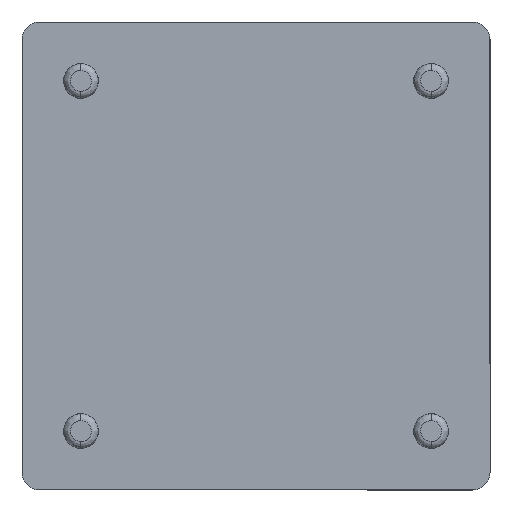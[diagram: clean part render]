
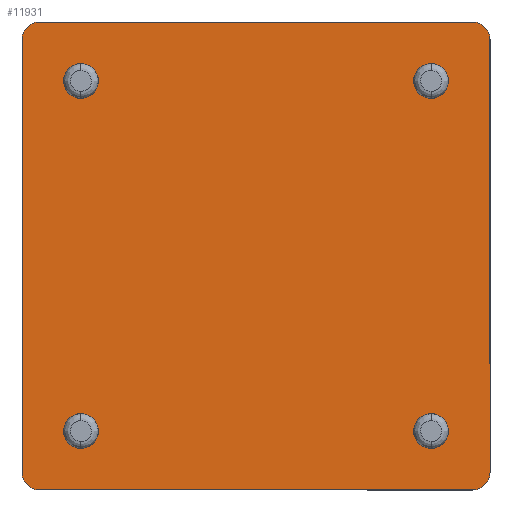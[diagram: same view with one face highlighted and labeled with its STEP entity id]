
A CAD part, front view. The second image highlights one B-rep face of the part: STEP entity #11931.
In plain terms, the highlighted planar face has unit normal (0, -1, 0).
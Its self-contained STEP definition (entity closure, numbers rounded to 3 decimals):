
#164 = ORIENTED_EDGE ( 'NONE', *, *, #25368, .T. ) ;
#183 = CARTESIAN_POINT ( 'NONE',  ( -50.5, 0., 30.333 ) ) ;
#385 = ORIENTED_EDGE ( 'NONE', *, *, #42515, .T. ) ;
#1343 = CARTESIAN_POINT ( 'NONE',  ( -62.5, 0., 13.333 ) ) ;
#2200 = CIRCLE ( 'NONE', #43546, 5. ) ;
#2352 = VERTEX_POINT ( 'NONE', #10492 ) ;
#2714 = VERTEX_POINT ( 'NONE', #47887 ) ;
#2782 = DIRECTION ( 'NONE',  ( 0., 0., 1. ) ) ;
#3357 = CARTESIAN_POINT ( 'NONE',  ( 50.5, 0., 30.333 ) ) ;
#3515 = ORIENTED_EDGE ( 'NONE', *, *, #27070, .T. ) ;
#3538 = FACE_BOUND ( 'NONE', #13553, .T. ) ;
#3954 = EDGE_CURVE ( 'NONE', #11346, #7875, #22836, .T. ) ;
#4024 = ORIENTED_EDGE ( 'NONE', *, *, #36066, .F. ) ;
#4224 = CARTESIAN_POINT ( 'NONE',  ( -62.5, 0., 13.333 ) ) ;
#4268 = ORIENTED_EDGE ( 'NONE', *, *, #31190, .F. ) ;
#4374 = AXIS2_PLACEMENT_3D ( 'NONE', #183, #23458, #30342 ) ;
#4381 = CIRCLE ( 'NONE', #12473, 3. ) ;
#5001 = LINE ( 'NONE', #37129, #13863 ) ;
#5107 = AXIS2_PLACEMENT_3D ( 'NONE', #9022, #35409, #47117 ) ;
#5283 = DIRECTION ( 'NONE',  ( 0., 1., 0. ) ) ;
#5328 = CIRCLE ( 'NONE', #5107, 3. ) ;
#5492 = DIRECTION ( 'NONE',  ( 0., 1., 0. ) ) ;
#6137 = EDGE_CURVE ( 'NONE', #32502, #2352, #13988, .T. ) ;
#6728 = CIRCLE ( 'NONE', #48358, 3. ) ;
#6843 = VECTOR ( 'NONE', #25539, 1000. ) ;
#7248 = LINE ( 'NONE', #1343, #37918 ) ;
#7850 = AXIS2_PLACEMENT_3D ( 'NONE', #3357, #11136, #37336 ) ;
#7875 = VERTEX_POINT ( 'NONE', #32726 ) ;
#8328 = EDGE_CURVE ( 'NONE', #2352, #32502, #6728, .T. ) ;
#9022 = CARTESIAN_POINT ( 'NONE',  ( 50.5, 0., 131.333 ) ) ;
#9033 = EDGE_CURVE ( 'NONE', #2714, #47476, #22618, .T. ) ;
#9405 = CARTESIAN_POINT ( 'NONE',  ( -50.5, 0., 33.333 ) ) ;
#9483 = EDGE_CURVE ( 'NONE', #7875, #35326, #7248, .T. ) ;
#9570 = ORIENTED_EDGE ( 'NONE', *, *, #14098, .F. ) ;
#9648 = DIRECTION ( 'NONE',  ( 0., 1., 0. ) ) ;
#9652 = CARTESIAN_POINT ( 'NONE',  ( -67.5, 0., 18.333 ) ) ;
#10492 = CARTESIAN_POINT ( 'NONE',  ( 50.5, 0., 33.333 ) ) ;
#11121 = EDGE_CURVE ( 'NONE', #14935, #24606, #40742, .T. ) ;
#11136 = DIRECTION ( 'NONE',  ( 0., 1., 0. ) ) ;
#11346 = VERTEX_POINT ( 'NONE', #16928 ) ;
#11931 = ADVANCED_FACE ( 'NONE', ( #44884, #27189, #3538, #43680, #41906 ), #33961, .T. ) ;
#12473 = AXIS2_PLACEMENT_3D ( 'NONE', #35573, #12990, #28465 ) ;
#12701 = DIRECTION ( 'NONE',  ( 1., 0., 0. ) ) ;
#12751 = VERTEX_POINT ( 'NONE', #15957 ) ;
#12990 = DIRECTION ( 'NONE',  ( 0., 1., 0. ) ) ;
#13104 = ORIENTED_EDGE ( 'NONE', *, *, #20108, .T. ) ;
#13229 = DIRECTION ( 'NONE',  ( -1., 0., 0. ) ) ;
#13465 = DIRECTION ( 'NONE',  ( 0., 0., 1. ) ) ;
#13553 = EDGE_LOOP ( 'NONE', ( #13104, #3515 ) ) ;
#13863 = VECTOR ( 'NONE', #44238, 1000. ) ;
#13946 = EDGE_LOOP ( 'NONE', ( #164, #41600 ) ) ;
#13988 = CIRCLE ( 'NONE', #7850, 3. ) ;
#14098 = EDGE_CURVE ( 'NONE', #45133, #45194, #2200, .T. ) ;
#14694 = EDGE_CURVE ( 'NONE', #45194, #18689, #29648, .T. ) ;
#14935 = VERTEX_POINT ( 'NONE', #40557 ) ;
#15802 = DIRECTION ( 'NONE',  ( 0., 0., 1. ) ) ;
#15957 = CARTESIAN_POINT ( 'NONE',  ( 67.5, 0., 143.333 ) ) ;
#15970 = CARTESIAN_POINT ( 'NONE',  ( -67.5, 0., 18.333 ) ) ;
#16117 = DIRECTION ( 'NONE',  ( 0., 1., 0. ) ) ;
#16889 = ORIENTED_EDGE ( 'NONE', *, *, #8328, .T. ) ;
#16891 = DIRECTION ( 'NONE',  ( 0., 0., -1. ) ) ;
#16928 = CARTESIAN_POINT ( 'NONE',  ( 67.5, 0., 18.333 ) ) ;
#17320 = VERTEX_POINT ( 'NONE', #39666 ) ;
#17535 = ORIENTED_EDGE ( 'NONE', *, *, #9033, .T. ) ;
#18689 = VERTEX_POINT ( 'NONE', #23473 ) ;
#18842 = DIRECTION ( 'NONE',  ( 0., -1., 0. ) ) ;
#19649 = EDGE_LOOP ( 'NONE', ( #16889, #39238 ) ) ;
#19674 = ORIENTED_EDGE ( 'NONE', *, *, #14694, .F. ) ;
#19768 = CARTESIAN_POINT ( 'NONE',  ( 50.5, 0., 30.333 ) ) ;
#20108 = EDGE_CURVE ( 'NONE', #33362, #17320, #4381, .T. ) ;
#20158 = AXIS2_PLACEMENT_3D ( 'NONE', #46869, #36149, #28221 ) ;
#20461 = CARTESIAN_POINT ( 'NONE',  ( -62.5, 0., 148.333 ) ) ;
#20571 = ORIENTED_EDGE ( 'NONE', *, *, #41274, .F. ) ;
#22039 = ORIENTED_EDGE ( 'NONE', *, *, #3954, .F. ) ;
#22259 = CIRCLE ( 'NONE', #36694, 5. ) ;
#22593 = VECTOR ( 'NONE', #12701, 1000. ) ;
#22618 = CIRCLE ( 'NONE', #37026, 3. ) ;
#22620 = DIRECTION ( 'NONE',  ( 0., 1., 0. ) ) ;
#22836 = CIRCLE ( 'NONE', #30134, 5. ) ;
#22884 = ORIENTED_EDGE ( 'NONE', *, *, #34516, .F. ) ;
#23237 = CIRCLE ( 'NONE', #39575, 3. ) ;
#23458 = DIRECTION ( 'NONE',  ( 0., 1., 0. ) ) ;
#23473 = CARTESIAN_POINT ( 'NONE',  ( 62.5, 0., 148.333 ) ) ;
#23933 = LINE ( 'NONE', #9652, #6843 ) ;
#24606 = VERTEX_POINT ( 'NONE', #9405 ) ;
#25176 = CARTESIAN_POINT ( 'NONE',  ( -50.5, 0., 131.333 ) ) ;
#25368 = EDGE_CURVE ( 'NONE', #24606, #14935, #45619, .T. ) ;
#25417 = DIRECTION ( 'NONE',  ( 0., 1., 0. ) ) ;
#25539 = DIRECTION ( 'NONE',  ( 0., 0., 1. ) ) ;
#26447 = CARTESIAN_POINT ( 'NONE',  ( -62.5, 0., 148.333 ) ) ;
#26457 = AXIS2_PLACEMENT_3D ( 'NONE', #37141, #18842, #37458 ) ;
#27070 = EDGE_CURVE ( 'NONE', #17320, #33362, #5328, .T. ) ;
#27189 = FACE_BOUND ( 'NONE', #45818, .T. ) ;
#27940 = DIRECTION ( 'NONE',  ( 0., 0., 1. ) ) ;
#28221 = DIRECTION ( 'NONE',  ( 0., 0., -1. ) ) ;
#28465 = DIRECTION ( 'NONE',  ( 0., 0., 1. ) ) ;
#29586 = ORIENTED_EDGE ( 'NONE', *, *, #9483, .F. ) ;
#29648 = LINE ( 'NONE', #20461, #22593 ) ;
#30134 = AXIS2_PLACEMENT_3D ( 'NONE', #35957, #5283, #35457 ) ;
#30342 = DIRECTION ( 'NONE',  ( 0., 0., 1. ) ) ;
#31190 = EDGE_CURVE ( 'NONE', #35326, #47961, #48380, .T. ) ;
#31342 = CARTESIAN_POINT ( 'NONE',  ( 62.5, 0., 143.333 ) ) ;
#31850 = DIRECTION ( 'NONE',  ( 0., 1., 0. ) ) ;
#32502 = VERTEX_POINT ( 'NONE', #41998 ) ;
#32726 = CARTESIAN_POINT ( 'NONE',  ( 62.5, 0., 13.333 ) ) ;
#32796 = CARTESIAN_POINT ( 'NONE',  ( -50.5, 0., 128.333 ) ) ;
#33362 = VERTEX_POINT ( 'NONE', #45886 ) ;
#33647 = CARTESIAN_POINT ( 'NONE',  ( -67.5, 0., 143.333 ) ) ;
#33961 = PLANE ( 'NONE',  #26457 ) ;
#34516 = EDGE_CURVE ( 'NONE', #18689, #12751, #22259, .T. ) ;
#35187 = CARTESIAN_POINT ( 'NONE',  ( -50.5, 0., 131.333 ) ) ;
#35326 = VERTEX_POINT ( 'NONE', #4224 ) ;
#35409 = DIRECTION ( 'NONE',  ( 0., 1., 0. ) ) ;
#35457 = DIRECTION ( 'NONE',  ( 0., 0., 1. ) ) ;
#35573 = CARTESIAN_POINT ( 'NONE',  ( 50.5, 0., 131.333 ) ) ;
#35957 = CARTESIAN_POINT ( 'NONE',  ( 62.5, 0., 18.333 ) ) ;
#36066 = EDGE_CURVE ( 'NONE', #12751, #11346, #5001, .T. ) ;
#36149 = DIRECTION ( 'NONE',  ( 0., 1., 0. ) ) ;
#36694 = AXIS2_PLACEMENT_3D ( 'NONE', #31342, #5492, #16891 ) ;
#36923 = CARTESIAN_POINT ( 'NONE',  ( -62.5, 0., 143.333 ) ) ;
#37026 = AXIS2_PLACEMENT_3D ( 'NONE', #25176, #9648, #13465 ) ;
#37129 = CARTESIAN_POINT ( 'NONE',  ( 67.5, 0., 18.333 ) ) ;
#37141 = CARTESIAN_POINT ( 'NONE',  ( 62.5, 0., 143.333 ) ) ;
#37336 = DIRECTION ( 'NONE',  ( 0., 0., 1. ) ) ;
#37448 = CARTESIAN_POINT ( 'NONE',  ( -50.5, 0., 30.333 ) ) ;
#37458 = DIRECTION ( 'NONE',  ( 0., 0., -1. ) ) ;
#37615 = DIRECTION ( 'NONE',  ( 0., 0., 1. ) ) ;
#37918 = VECTOR ( 'NONE', #13229, 1000. ) ;
#39238 = ORIENTED_EDGE ( 'NONE', *, *, #6137, .T. ) ;
#39575 = AXIS2_PLACEMENT_3D ( 'NONE', #35187, #31850, #27940 ) ;
#39666 = CARTESIAN_POINT ( 'NONE',  ( 50.5, 0., 128.333 ) ) ;
#40557 = CARTESIAN_POINT ( 'NONE',  ( -50.5, 0., 27.333 ) ) ;
#40742 = CIRCLE ( 'NONE', #48807, 3. ) ;
#41274 = EDGE_CURVE ( 'NONE', #47961, #45133, #23933, .T. ) ;
#41600 = ORIENTED_EDGE ( 'NONE', *, *, #11121, .T. ) ;
#41906 = FACE_OUTER_BOUND ( 'NONE', #45753, .T. ) ;
#41998 = CARTESIAN_POINT ( 'NONE',  ( 50.5, 0., 27.333 ) ) ;
#42515 = EDGE_CURVE ( 'NONE', #47476, #2714, #23237, .T. ) ;
#43546 = AXIS2_PLACEMENT_3D ( 'NONE', #36923, #25417, #2782 ) ;
#43680 = FACE_BOUND ( 'NONE', #13946, .T. ) ;
#44238 = DIRECTION ( 'NONE',  ( 0., 0., -1. ) ) ;
#44884 = FACE_BOUND ( 'NONE', #19649, .T. ) ;
#45133 = VERTEX_POINT ( 'NONE', #33647 ) ;
#45194 = VERTEX_POINT ( 'NONE', #26447 ) ;
#45619 = CIRCLE ( 'NONE', #4374, 3. ) ;
#45753 = EDGE_LOOP ( 'NONE', ( #22884, #19674, #9570, #20571, #4268, #29586, #22039, #4024 ) ) ;
#45818 = EDGE_LOOP ( 'NONE', ( #17535, #385 ) ) ;
#45886 = CARTESIAN_POINT ( 'NONE',  ( 50.5, 0., 134.333 ) ) ;
#46869 = CARTESIAN_POINT ( 'NONE',  ( -62.5, 0., 18.333 ) ) ;
#47117 = DIRECTION ( 'NONE',  ( 0., 0., 1. ) ) ;
#47476 = VERTEX_POINT ( 'NONE', #32796 ) ;
#47887 = CARTESIAN_POINT ( 'NONE',  ( -50.5, 0., 134.333 ) ) ;
#47961 = VERTEX_POINT ( 'NONE', #15970 ) ;
#48358 = AXIS2_PLACEMENT_3D ( 'NONE', #19768, #16117, #15802 ) ;
#48380 = CIRCLE ( 'NONE', #20158, 5. ) ;
#48807 = AXIS2_PLACEMENT_3D ( 'NONE', #37448, #22620, #37615 ) ;
